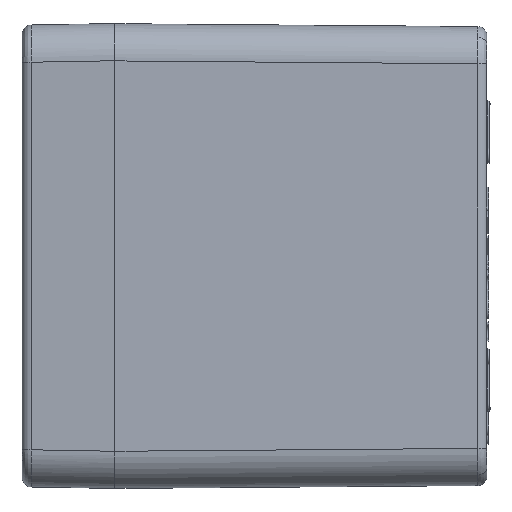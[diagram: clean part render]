
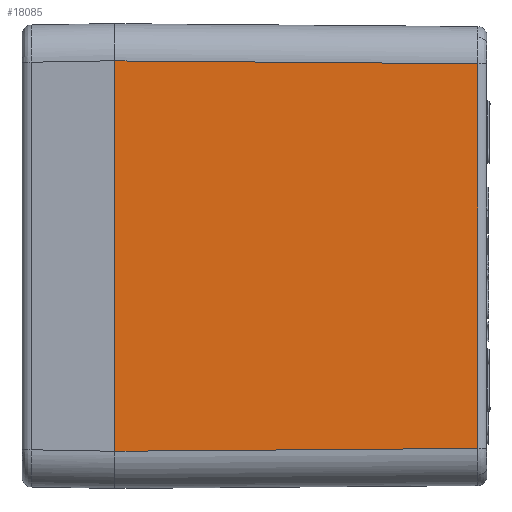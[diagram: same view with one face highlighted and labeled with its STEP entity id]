
A CAD part, left-side view. The second image highlights one B-rep face of the part: STEP entity #18085.
In plain terms, the highlighted planar face has unit normal (-1, -0.008, 0).
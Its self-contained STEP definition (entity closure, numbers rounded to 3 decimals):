
#288 = VERTEX_POINT ( 'NONE', #12159 ) ;
#336 = VECTOR ( 'NONE', #29354, 1000. ) ;
#446 = DIRECTION ( 'NONE',  ( 0., 0., -1. ) ) ;
#661 = ORIENTED_EDGE ( 'NONE', *, *, #33265, .F. ) ;
#2645 = LINE ( 'NONE', #33154, #336 ) ;
#3440 = LINE ( 'NONE', #39470, #40876 ) ;
#8970 = VECTOR ( 'NONE', #446, 1000. ) ;
#9277 = EDGE_CURVE ( 'NONE', #31661, #17754, #18078, .T. ) ;
#10658 = LINE ( 'NONE', #29006, #8970 ) ;
#12159 = CARTESIAN_POINT ( 'NONE',  ( -54.987, 0.3, 31.487 ) ) ;
#13188 = AXIS2_PLACEMENT_3D ( 'NONE', #36298, #21718, #22034 ) ;
#14448 = EDGE_LOOP ( 'NONE', ( #661, #34050, #17597, #46781 ) ) ;
#14805 = CARTESIAN_POINT ( 'NONE',  ( -54.527, -58.212, -31.027 ) ) ;
#15370 = CARTESIAN_POINT ( 'NONE',  ( -54.987, 0.3, -31.487 ) ) ;
#16575 = DIRECTION ( 'NONE',  ( 0.008, -1., 0.008 ) ) ;
#17597 = ORIENTED_EDGE ( 'NONE', *, *, #9277, .T. ) ;
#17754 = VERTEX_POINT ( 'NONE', #14805 ) ;
#18078 = LINE ( 'NONE', #37966, #36200 ) ;
#18085 = ADVANCED_FACE ( 'NONE', ( #45148 ), #46520, .T. ) ;
#21718 = DIRECTION ( 'NONE',  ( -1., -0.008, 0. ) ) ;
#22034 = DIRECTION ( 'NONE',  ( 0.008, -1., 0. ) ) ;
#27720 = EDGE_CURVE ( 'NONE', #288, #31661, #3440, .T. ) ;
#29006 = CARTESIAN_POINT ( 'NONE',  ( -54.527, -58.212, -37.5 ) ) ;
#29354 = DIRECTION ( 'NONE',  ( 0.008, -1., -0.008 ) ) ;
#30502 = EDGE_CURVE ( 'NONE', #34271, #17754, #10658, .T. ) ;
#31661 = VERTEX_POINT ( 'NONE', #15370 ) ;
#33154 = CARTESIAN_POINT ( 'NONE',  ( -54.996, 1.458, 31.496 ) ) ;
#33265 = EDGE_CURVE ( 'NONE', #288, #34271, #2645, .T. ) ;
#34050 = ORIENTED_EDGE ( 'NONE', *, *, #27720, .T. ) ;
#34271 = VERTEX_POINT ( 'NONE', #37172 ) ;
#36200 = VECTOR ( 'NONE', #16575, 1000. ) ;
#36298 = CARTESIAN_POINT ( 'NONE',  ( -55., 2., -37.5 ) ) ;
#37172 = CARTESIAN_POINT ( 'NONE',  ( -54.527, -58.212, 31.027 ) ) ;
#37966 = CARTESIAN_POINT ( 'NONE',  ( -54.987, 0.3, -31.487 ) ) ;
#39470 = CARTESIAN_POINT ( 'NONE',  ( -54.987, 0.3, -37.5 ) ) ;
#40876 = VECTOR ( 'NONE', #46575, 1000. ) ;
#45148 = FACE_OUTER_BOUND ( 'NONE', #14448, .T. ) ;
#46520 = PLANE ( 'NONE',  #13188 ) ;
#46575 = DIRECTION ( 'NONE',  ( 0., 0., -1. ) ) ;
#46781 = ORIENTED_EDGE ( 'NONE', *, *, #30502, .F. ) ;
